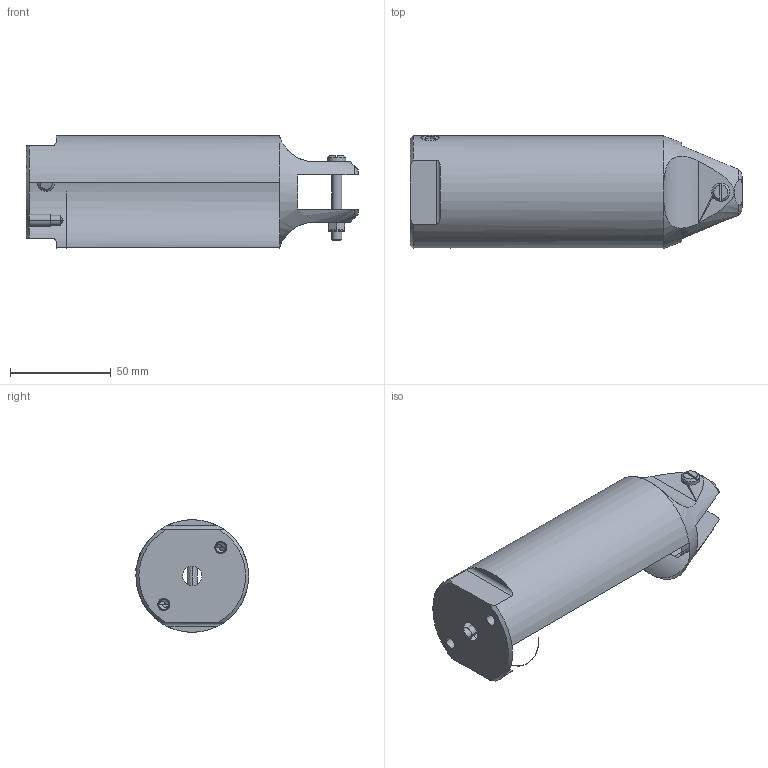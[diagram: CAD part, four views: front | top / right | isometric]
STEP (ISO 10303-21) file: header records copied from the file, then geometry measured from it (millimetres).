
FILE_DESCRIPTION (( 'STEP AP214' ), '1' );
FILE_NAME ('GT-NR30.STEP', '2019-11-28T01:01:29', ( '微软用户' ), ( '微软中国' ), 'SwSTEP 2.0', 'SolidWorks 2016', '' );
FILE_SCHEMA (( 'AUTOMOTIVE_DESIGN' ));
Length unit declared in the file: millimetre
Products named in the file (1): GT-NR30
Bounding box: 165 x 56.26 x 56 mm (x, y, z)
Surface area: 34996.9 mm2 (no closed solid volume)
Topology: 0 solids, 8 shells, 197 faces, 518 edges, 318 vertices
Faces by surface type: plane 83, cylinder 57, cone 51, bspline 4, torus 2
Full cylindrical faces by diameter (mm): 56 x1
Entity records: 8229 total; most frequent: CARTESIAN_POINT 3632, ORIENTED_EDGE 963, DIRECTION 905, EDGE_CURVE 507, AXIS2_PLACEMENT_3D 366, VERTEX_POINT 315, EDGE_LOOP 214, FACE_OUTER_BOUND 196
